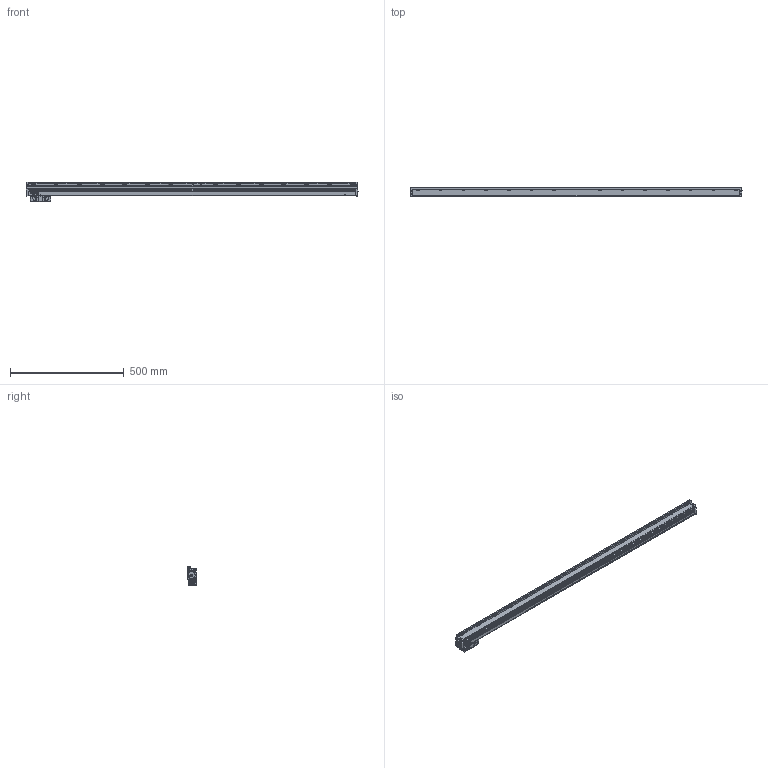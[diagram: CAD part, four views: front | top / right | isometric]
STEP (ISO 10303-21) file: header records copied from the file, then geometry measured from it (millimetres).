
FILE_DESCRIPTION(('Creo Elements/Direct Modeling STEP Export'),'2;1');
FILE_NAME('Regla G2-1340.stp','2015-10-01T10:15:06',(''),(''),'Creo Elements/Direct Modeling STEP processor for AP214 (Solid Model)','Creo Elements/Direct Modeling 18.1G 27-Feb-2015 (C) Parametric Technology GmbH','');
FILE_SCHEMA(('AUTOMOTIVE_DESIGN { 1 0 10303 214 1 1 1 1 }'));
Products named in the file (3): REGLA; CABEZA; Regla_G2_cm1340
Assembly tree (2 placements, depth 2):
  Regla_G2_cm1340
    CABEZA
    REGLA
Bounding box: 1461 x 38 x 85 mm (x, y, z)
Volume: 2232958.9 mm3; surface area: 441931.1 mm2
Topology: 2 solids, 7 shells, 1971 faces, 5783 edges, 3754 vertices
Faces by surface type: plane 873, cylinder 850, cone 178, torus 36, bspline 30, sphere 4
Entity records: 75266 total; most frequent: CARTESIAN_POINT 23578, ORIENTED_EDGE 11550, DIRECTION 10157, EDGE_CURVE 5775, VERTEX_POINT 3754, AXIS2_PLACEMENT_3D 3700, VECTOR 2757, LINE 2757
